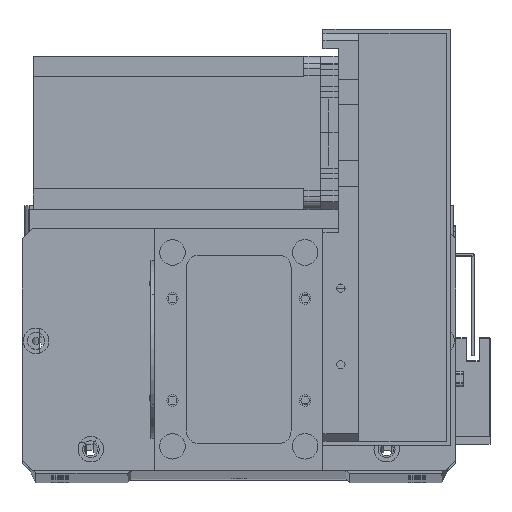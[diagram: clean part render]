
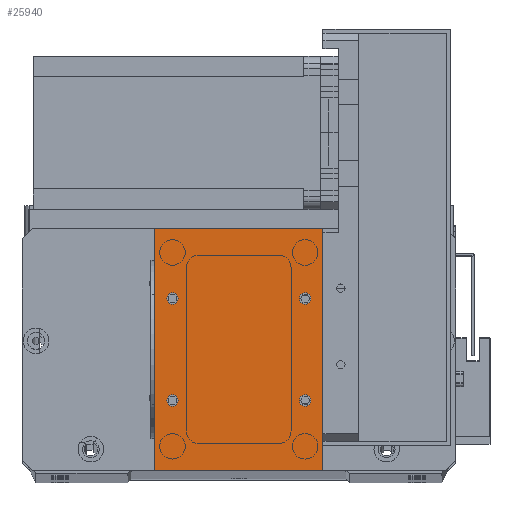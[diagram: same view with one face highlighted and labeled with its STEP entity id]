
A CAD part, top view. The second image highlights one B-rep face of the part: STEP entity #25940.
In plain terms, the highlighted planar face has unit normal (0, 0, 1).
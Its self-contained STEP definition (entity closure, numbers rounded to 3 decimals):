
#130 = ORIENTED_EDGE ( 'NONE', *, *, #25374, .F. ) ;
#145 = CARTESIAN_POINT ( 'NONE',  ( 56.75, 27.5, 2. ) ) ;
#502 = EDGE_CURVE ( 'NONE', #26027, #8954, #6874, .T. ) ;
#769 = DIRECTION ( 'NONE',  ( 0., 0., 1. ) ) ;
#2010 = EDGE_LOOP ( 'NONE', ( #16440, #2413 ) ) ;
#2413 = ORIENTED_EDGE ( 'NONE', *, *, #17078, .F. ) ;
#2703 = DIRECTION ( 'NONE',  ( 0., 0., 1. ) ) ;
#3001 = CARTESIAN_POINT ( 'NONE',  ( 9.25, 27.5, 2. ) ) ;
#3739 = CIRCLE ( 'NONE', #14418, 2.25 ) ;
#4422 = LINE ( 'NONE', #28993, #25746 ) ;
#4450 = DIRECTION ( 'NONE',  ( 0., 0., -1. ) ) ;
#4846 = VERTEX_POINT ( 'NONE', #13708 ) ;
#5433 = ORIENTED_EDGE ( 'NONE', *, *, #17580, .F. ) ;
#5552 = CARTESIAN_POINT ( 'NONE',  ( 59., 67.5, 2. ) ) ;
#5744 = ORIENTED_EDGE ( 'NONE', *, *, #12766, .T. ) ;
#5944 = VERTEX_POINT ( 'NONE', #145 ) ;
#5980 = EDGE_CURVE ( 'NONE', #8954, #26027, #20345, .T. ) ;
#6216 = VERTEX_POINT ( 'NONE', #29762 ) ;
#6874 = CIRCLE ( 'NONE', #22170, 2.25 ) ;
#7460 = CIRCLE ( 'NONE', #14405, 2.25 ) ;
#7634 = VERTEX_POINT ( 'NONE', #3001 ) ;
#8148 = DIRECTION ( 'NONE',  ( 1., 0., 0. ) ) ;
#8638 = EDGE_LOOP ( 'NONE', ( #17464, #9248 ) ) ;
#8954 = VERTEX_POINT ( 'NONE', #13794 ) ;
#8982 = FACE_BOUND ( 'NONE', #11614, .T. ) ;
#9076 = CARTESIAN_POINT ( 'NONE',  ( 4.75, 67.5, 2. ) ) ;
#9248 = ORIENTED_EDGE ( 'NONE', *, *, #502, .F. ) ;
#9991 = CARTESIAN_POINT ( 'NONE',  ( 56.75, 67.5, 2. ) ) ;
#10137 = EDGE_LOOP ( 'NONE', ( #18254, #26815, #5744, #15104 ) ) ;
#10794 = EDGE_CURVE ( 'NONE', #6216, #7634, #3739, .T. ) ;
#10862 = CARTESIAN_POINT ( 'NONE',  ( 0., 95., 2. ) ) ;
#11614 = EDGE_LOOP ( 'NONE', ( #25825, #130 ) ) ;
#11745 = VERTEX_POINT ( 'NONE', #9076 ) ;
#11815 = DIRECTION ( 'NONE',  ( 0., -1., 0. ) ) ;
#11938 = CARTESIAN_POINT ( 'NONE',  ( 59., 67.5, 2. ) ) ;
#12086 = CARTESIAN_POINT ( 'NONE',  ( 0., 0., 2. ) ) ;
#12462 = CARTESIAN_POINT ( 'NONE',  ( 59., 27.5, 2. ) ) ;
#12497 = AXIS2_PLACEMENT_3D ( 'NONE', #12462, #30435, #15065 ) ;
#12766 = EDGE_CURVE ( 'NONE', #15897, #18545, #4422, .T. ) ;
#13039 = DIRECTION ( 'NONE',  ( 0., 0., 1. ) ) ;
#13554 = CIRCLE ( 'NONE', #20821, 2.25 ) ;
#13629 = DIRECTION ( 'NONE',  ( 0., 1., 0. ) ) ;
#13708 = CARTESIAN_POINT ( 'NONE',  ( 0., 0., 2. ) ) ;
#13794 = CARTESIAN_POINT ( 'NONE',  ( 61.25, 67.5, 2. ) ) ;
#13984 = CARTESIAN_POINT ( 'NONE',  ( 7., 67.5, 2. ) ) ;
#14405 = AXIS2_PLACEMENT_3D ( 'NONE', #13984, #31917, #16556 ) ;
#14418 = AXIS2_PLACEMENT_3D ( 'NONE', #28403, #13039, #30991 ) ;
#14530 = DIRECTION ( 'NONE',  ( 1., 0., 0. ) ) ;
#14707 = VERTEX_POINT ( 'NONE', #15130 ) ;
#15031 = FACE_OUTER_BOUND ( 'NONE', #10137, .T. ) ;
#15065 = DIRECTION ( 'NONE',  ( 1., 0., 0. ) ) ;
#15104 = ORIENTED_EDGE ( 'NONE', *, *, #32314, .T. ) ;
#15130 = CARTESIAN_POINT ( 'NONE',  ( 9.25, 67.5, 2. ) ) ;
#15379 = CARTESIAN_POINT ( 'NONE',  ( 7., 67.5, 2. ) ) ;
#15504 = CARTESIAN_POINT ( 'NONE',  ( 66., 0., 2. ) ) ;
#15897 = VERTEX_POINT ( 'NONE', #15504 ) ;
#16167 = CARTESIAN_POINT ( 'NONE',  ( 59., 27.5, 2. ) ) ;
#16275 = VERTEX_POINT ( 'NONE', #17198 ) ;
#16440 = ORIENTED_EDGE ( 'NONE', *, *, #24421, .F. ) ;
#16556 = DIRECTION ( 'NONE',  ( 1., 0., 0. ) ) ;
#17078 = EDGE_CURVE ( 'NONE', #11745, #14707, #27563, .T. ) ;
#17175 = VECTOR ( 'NONE', #11815, 1000. ) ;
#17198 = CARTESIAN_POINT ( 'NONE',  ( 0., 95., 2. ) ) ;
#17464 = ORIENTED_EDGE ( 'NONE', *, *, #5980, .F. ) ;
#17580 = EDGE_CURVE ( 'NONE', #7634, #6216, #13554, .T. ) ;
#17626 = VECTOR ( 'NONE', #31390, 1000. ) ;
#17937 = DIRECTION ( 'NONE',  ( 1., 0., 0. ) ) ;
#18064 = CARTESIAN_POINT ( 'NONE',  ( 7., 27.5, 2. ) ) ;
#18097 = DIRECTION ( 'NONE',  ( 1., 0., 0. ) ) ;
#18254 = ORIENTED_EDGE ( 'NONE', *, *, #33186, .T. ) ;
#18545 = VERTEX_POINT ( 'NONE', #32817 ) ;
#18755 = DIRECTION ( 'NONE',  ( 1., 0., 0. ) ) ;
#18833 = AXIS2_PLACEMENT_3D ( 'NONE', #16167, #769, #18755 ) ;
#20345 = CIRCLE ( 'NONE', #30967, 2.25 ) ;
#20667 = DIRECTION ( 'NONE',  ( 1., 0., 0. ) ) ;
#20703 = CARTESIAN_POINT ( 'NONE',  ( 0., 0., 2. ) ) ;
#20821 = AXIS2_PLACEMENT_3D ( 'NONE', #18064, #2703, #20667 ) ;
#21849 = FACE_BOUND ( 'NONE', #2010, .T. ) ;
#22170 = AXIS2_PLACEMENT_3D ( 'NONE', #11938, #29910, #14530 ) ;
#22316 = PLANE ( 'NONE',  #28422 ) ;
#22432 = DIRECTION ( 'NONE',  ( -1., 0., 0. ) ) ;
#22673 = FACE_BOUND ( 'NONE', #8638, .T. ) ;
#22699 = VECTOR ( 'NONE', #18097, 1000. ) ;
#23501 = LINE ( 'NONE', #20703, #22699 ) ;
#23537 = DIRECTION ( 'NONE',  ( 0., 0., 1. ) ) ;
#24421 = EDGE_CURVE ( 'NONE', #14707, #11745, #7460, .T. ) ;
#24453 = LINE ( 'NONE', #10862, #17626 ) ;
#24855 = EDGE_CURVE ( 'NONE', #4846, #15897, #23501, .T. ) ;
#25374 = EDGE_CURVE ( 'NONE', #5944, #26444, #27017, .T. ) ;
#25746 = VECTOR ( 'NONE', #13629, 1000. ) ;
#25825 = ORIENTED_EDGE ( 'NONE', *, *, #30136, .F. ) ;
#25940 = ADVANCED_FACE ( 'NONE', ( #21849, #22673, #8982, #28669, #15031 ), #22316, .F. ) ;
#26027 = VERTEX_POINT ( 'NONE', #9991 ) ;
#26444 = VERTEX_POINT ( 'NONE', #29444 ) ;
#26815 = ORIENTED_EDGE ( 'NONE', *, *, #24855, .T. ) ;
#27017 = CIRCLE ( 'NONE', #12497, 2.25 ) ;
#27563 = CIRCLE ( 'NONE', #30712, 2.25 ) ;
#28403 = CARTESIAN_POINT ( 'NONE',  ( 7., 27.5, 2. ) ) ;
#28422 = AXIS2_PLACEMENT_3D ( 'NONE', #12086, #4450, #22432 ) ;
#28669 = FACE_BOUND ( 'NONE', #29085, .T. ) ;
#28993 = CARTESIAN_POINT ( 'NONE',  ( 66., 0., 2. ) ) ;
#29085 = EDGE_LOOP ( 'NONE', ( #5433, #32025 ) ) ;
#29444 = CARTESIAN_POINT ( 'NONE',  ( 61.25, 27.5, 2. ) ) ;
#29749 = CIRCLE ( 'NONE', #18833, 2.25 ) ;
#29762 = CARTESIAN_POINT ( 'NONE',  ( 4.75, 27.5, 2. ) ) ;
#29786 = CARTESIAN_POINT ( 'NONE',  ( 0., 0., 2. ) ) ;
#29910 = DIRECTION ( 'NONE',  ( 0., 0., 1. ) ) ;
#30136 = EDGE_CURVE ( 'NONE', #26444, #5944, #29749, .T. ) ;
#30435 = DIRECTION ( 'NONE',  ( 0., 0., 1. ) ) ;
#30712 = AXIS2_PLACEMENT_3D ( 'NONE', #15379, #33296, #17937 ) ;
#30847 = LINE ( 'NONE', #29786, #17175 ) ;
#30967 = AXIS2_PLACEMENT_3D ( 'NONE', #5552, #23537, #8148 ) ;
#30991 = DIRECTION ( 'NONE',  ( 1., 0., 0. ) ) ;
#31390 = DIRECTION ( 'NONE',  ( -1., 0., 0. ) ) ;
#31917 = DIRECTION ( 'NONE',  ( 0., 0., 1. ) ) ;
#32025 = ORIENTED_EDGE ( 'NONE', *, *, #10794, .F. ) ;
#32314 = EDGE_CURVE ( 'NONE', #18545, #16275, #24453, .T. ) ;
#32817 = CARTESIAN_POINT ( 'NONE',  ( 66., 95., 2. ) ) ;
#33186 = EDGE_CURVE ( 'NONE', #16275, #4846, #30847, .T. ) ;
#33296 = DIRECTION ( 'NONE',  ( 0., 0., 1. ) ) ;
